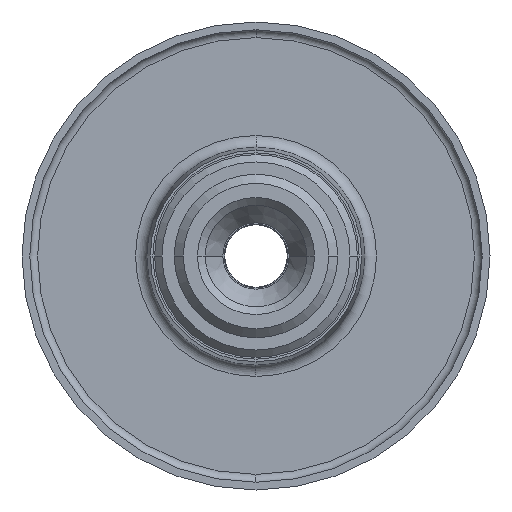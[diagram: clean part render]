
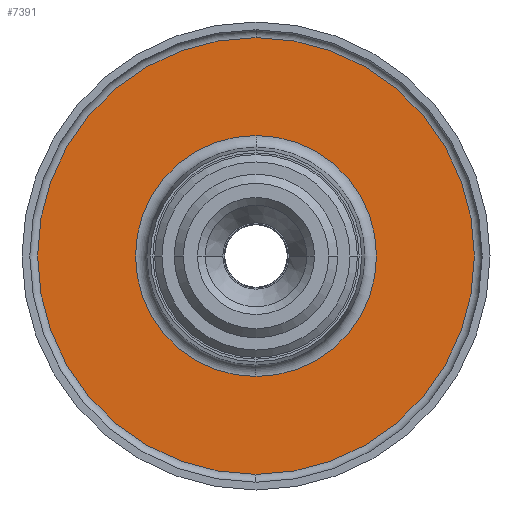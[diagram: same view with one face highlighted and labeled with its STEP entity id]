
A CAD part, left-side view. The second image highlights one B-rep face of the part: STEP entity #7391.
In plain terms, the highlighted planar face has unit normal (-1, 0, 0) as drawn and (1, 0, 0) by its records, which use the part's own axes.
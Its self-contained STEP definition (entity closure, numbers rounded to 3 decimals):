
#7032=CARTESIAN_POINT('',(1.,0.,0.));
#7033=DIRECTION('',(1.,0.,0.));
#7034=DIRECTION('',(0.,1.,0.));
#7035=AXIS2_PLACEMENT_3D('',#7032,#7033,#7034);
#7057=CARTESIAN_POINT('',(1.,0.,0.));
#7058=DIRECTION('',(1.,0.,0.));
#7059=DIRECTION('',(0.,1.,0.));
#7060=AXIS2_PLACEMENT_3D('',#7057,#7058,#7059);
#7080=CARTESIAN_POINT('',(1.,0.,0.));
#7081=DIRECTION('',(1.,0.,0.));
#7082=DIRECTION('',(0.,-1.,0.));
#7083=AXIS2_PLACEMENT_3D('',#7080,#7081,#7082);
#7143=CARTESIAN_POINT('',(1.,0.,0.));
#7144=DIRECTION('',(1.,0.,0.));
#7145=DIRECTION('',(0.,-1.,0.));
#7146=AXIS2_PLACEMENT_3D('',#7143,#7144,#7145);
#7195=CARTESIAN_POINT('',(1.,15.449,0.));
#7196=CARTESIAN_POINT('',(1.,-15.449,0.));
#7197=VERTEX_POINT('',#7195);
#7198=VERTEX_POINT('',#7196);
#7223=CARTESIAN_POINT('',(1.,28.,0.));
#7224=CARTESIAN_POINT('',(1.,-28.,0.));
#7225=VERTEX_POINT('',#7223);
#7226=VERTEX_POINT('',#7224);
#7375=CARTESIAN_POINT('',(1.,0.,0.));
#7376=DIRECTION('',(1.,0.,0.));
#7377=DIRECTION('',(0.,-1.,0.));
#7378=AXIS2_PLACEMENT_3D('',#7375,#7376,#7377);
#7379=PLANE('',#7378);
#7381=ORIENTED_EDGE('',*,*,#7380,.F.);
#7383=ORIENTED_EDGE('',*,*,#7382,.F.);
#7384=EDGE_LOOP('',(#7381,#7383));
#7385=FACE_OUTER_BOUND('',#7384,.F.);
#7386=ORIENTED_EDGE('',*,*,#7365,.T.);
#7388=ORIENTED_EDGE('',*,*,#7387,.T.);
#7389=EDGE_LOOP('',(#7386,#7388));
#7390=FACE_BOUND('',#7389,.F.);
#7391=ADVANCED_FACE('',(#7385,#7390),#7379,.T.);
#7036=CIRCLE('',#7035,15.449);
#7061=CIRCLE('',#7060,28.);
#7084=CIRCLE('',#7083,28.);
#7147=CIRCLE('',#7146,15.449);
#7365=EDGE_CURVE('',#7197,#7198,#7036,.T.);
#7380=EDGE_CURVE('',#7225,#7226,#7061,.T.);
#7382=EDGE_CURVE('',#7226,#7225,#7084,.T.);
#7387=EDGE_CURVE('',#7198,#7197,#7147,.T.);
